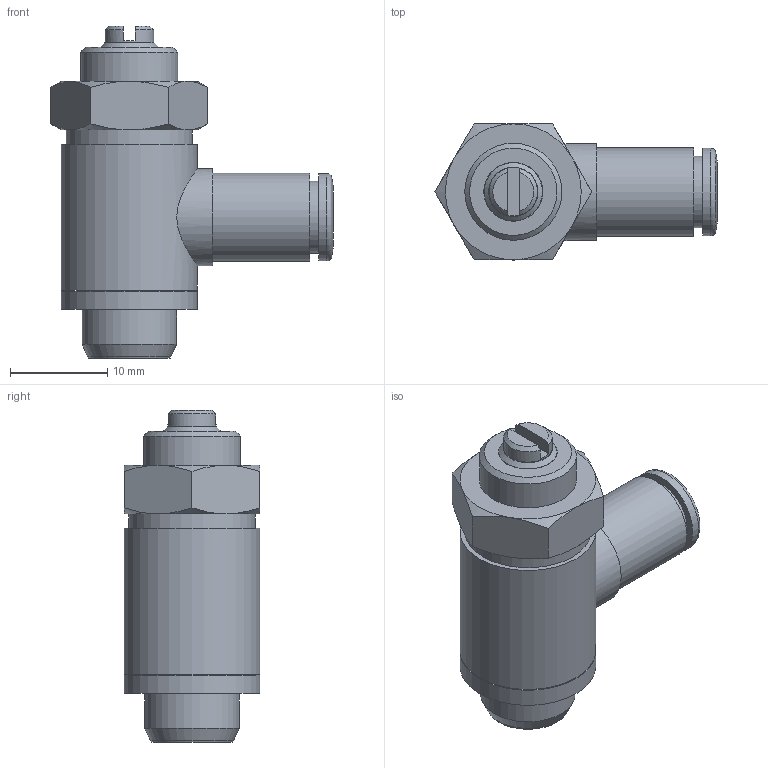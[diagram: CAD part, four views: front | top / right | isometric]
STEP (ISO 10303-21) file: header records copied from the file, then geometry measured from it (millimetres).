
FILE_DESCRIPTION(('Bauteilbeschreibung','HiCAD-Model','HiCAD-STEP-TRANSLATION','Bauteilbeschreibung'),'2;1');
FILE_NAME('B:/ABGLEICH/ZEICHNUNGEN/STEP FÜR INTERNET/STEP/IPSO 029/304802_IPSO_029_4_1-8.STP','2012-01-27T12:10:15+00:00',('Konstrukteur'),('Konstrukteur Firma GmbH'),' HiCAD neXt 2008, Step 3.1.1401.2J ','HiCAD neXt 2008','confidential');
FILE_SCHEMA(('AUTOMOTIVE_DESIGN { 1 2 10303 214 0 1 1 1 }'));
Length unit declared in the file: millimetre
Products named in the file (16): A04802_IPSO_029_4_1_8; A00032; A00042_DTG__1_8_UNV ; A04001_2; A0400102; DIN 13_M6X0_75; A04001_3; A0400103; DIN 13_M8X0_75; A04001_1; A0400101; G 1_8; DIN 13_M7X0_75; DIN0130M6X0075; DR4_1_NEU; R201202_N
Assembly tree (15 placements, depth 3):
  A04802_IPSO_029_4_1_8
    A00032
    A00042_DTG__1_8_UNV 
    A04001_2
    A0400102
      DIN 13_M6X0_75
    A04001_3
    A0400103
      DIN 13_M8X0_75
    A04001_1
    A0400101
      G 1_8
      DIN 13_M7X0_75
      DIN0130M6X0075
    DR4_1_NEU
    R201202_N
Bounding box: 29.08 x 14 x 34.2 mm (x, y, z)
Volume: 4260.7 mm3; surface area: 6789.9 mm2
Topology: 12 solids, 12 shells, 178 faces, 392 edges, 245 vertices
Faces by surface type: plane 70, cylinder 59, cone 48, torus 1
Full cylindrical faces by diameter (mm): 2.2 x4, 3 x2, 4 x1, 4.1 x2, 5 x2, 5.08 x3, 5.6 x1, 6 x4, 6.08 x1, 6.4 x2, 6.5 x1, 6.9 x1, 7 x3, 7.08 x2, 7.3 x1, 7.4 x1, 7.5 x1, 7.6 x2, 8 x1, 8.566 x2, 8.8 x1, 9 x1, 9.1 x1, 9.65 x2, 9.728 x1, 9.9 x2, 10 x3, 10.2 x1, 10.6 x1, 13 x1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
Entity records: 12346 total; most frequent: CARTESIAN_POINT 7222, DIRECTION 798, ORIENTED_EDGE 538, AXIS2_PLACEMENT_3D 371, EDGE_LOOP 310, COLOUR_RGB 271, PRESENTATION_STYLE_ASSIGNMENT 271, EDGE_CURVE 269
